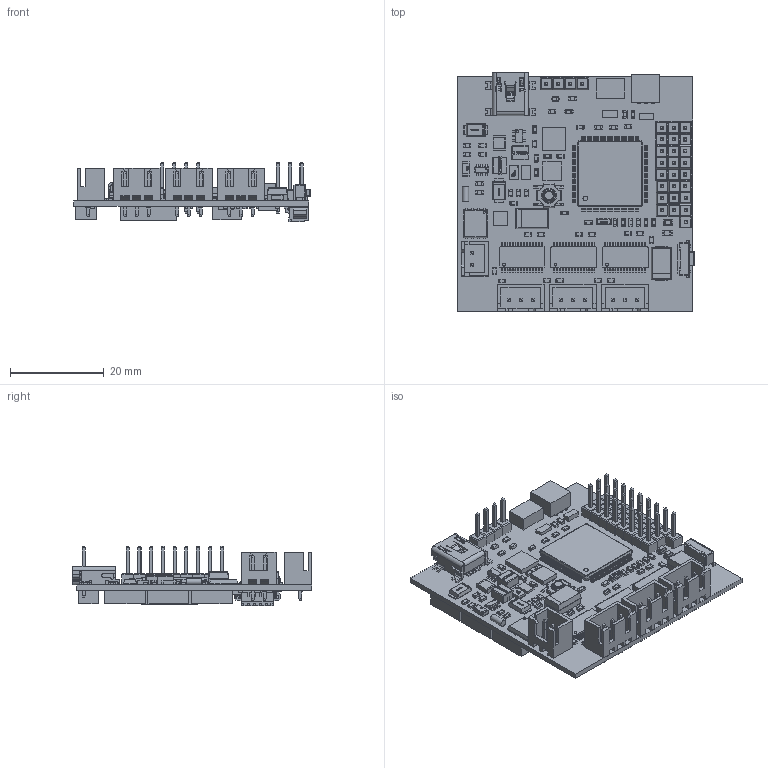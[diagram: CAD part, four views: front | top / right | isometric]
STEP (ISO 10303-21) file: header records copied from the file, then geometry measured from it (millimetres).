
FILE_DESCRIPTION(/* description */ (''),/* implementation_level */ '2;1');
FILE_NAME(/* name */ 'C:/Users/Андрей/YandexDisk/модельки/Controllers_SBGC/Extended.step',/* time_stamp */ '2020-09-29T19:30:48+03:00',/* author */ (''),/* organization */ (''),/* preprocessor_version */ 'ST-DEVELOPER v18.1',/* originating_system */ 'Autodesk Translation Framework v9.3.0.1241',/* authorisation */ '');
FILE_SCHEMA (('AUTOMOTIVE_DESIGN { 1 0 10303 214 3 1 1 }'));
Products named in the file (195): (Unsaved); SBGC_Extended; Board; SW3; E-Switch_-_TL3330AF130QG_(Tact_Switch__SMD); HA1; 989426720; Extruded; R31; U12; sot236; U11; SOT23-5-2; U10; 989427520; Extruded_1; U9; 989427680; Extruded_2; U8; 8-TDFN_2x3; U7; 989427200; Extruded_3; U6; 989427840; Extruded_4; U5; LQFP100; U4; 989428000; Extruded_5; U3; U2; U1; SW3dPS-TSSOP-28_P065; SW3dPS-TSSOP-28_P065_Free-Models2; SW3dPS-TSSOP-28_P065_455332561; SW3dPS-TSSOP-28_P065_Extruded2; SW3dPS-TSSOP-28_P065_455099953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
Assembly tree (318 placements, depth 9):
  (Unsaved)
    SBGC_Extended
      Board
      SW3
        E-Switch_-_TL3330AF130QG_(Tact_Switch__SMD)
      HA1
        989426720
          Extruded
      R31
        Resistors_0603
      U12
        sot236
      U11
        SOT23-5-2
      U10
        989427520
          Extruded_1
      U9
        989427680
          Extruded_2
      U8
        8-TDFN_2x3
      U7
        989427200
          Extruded_3
      U6
        989427840
          Extruded_4
      U5
        LQFP100
      U4
        989428000
          Extruded_5
      U3
        SW3dPS-TSSOP-28_P065
          SW3dPS-TSSOP-28_P065_Free-Models2
            SW3dPS-TSSOP-28_P065_PINTSSOP-57  x28
              SW3dPS-TSSOP-28_P065_Board3
              SW3dPS-TSSOP-28_P065_Free-Models3
                SW3dPS-TSSOP-28_P065_353885137
                  SW3dPS-TSSOP-28_P065_Extruded3
            SW3dPS-TSSOP-28_P065_455332561
              SW3dPS-TSSOP-28_P065_Extruded2
            SW3dPS-TSSOP-28_P065_455099953
              SW3dPS-TSSOP-28_P065_Cylinder1
          SW3dPS-TSSOP-28_P065_Board2
      U2
        SW3dPS-TSSOP-28_P065
          SW3dPS-TSSOP-28_P065_Free-Models2
            SW3dPS-TSSOP-28_P065_PINTSSOP-57  x28
              SW3dPS-TSSOP-28_P065_Board3
              SW3dPS-TSSOP-28_P065_Free-Models3
                SW3dPS-TSSOP-28_P065_353885137
                  SW3dPS-TSSOP-28_P065_Extruded3
            SW3dPS-TSSOP-28_P065_455332561
              SW3dPS-TSSOP-28_P065_Extruded2
            SW3dPS-TSSOP-28_P065_455099953
              SW3dPS-TSSOP-28_P065_Cylinder1
          SW3dPS-TSSOP-28_P065_Board2
      U1
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Bounding box: 50.33 x 50.95 x 12.76 mm (x, y, z)
Volume: 6057.9 mm3; surface area: 13990.7 mm2
Topology: 420 solids, 420 shells, 13596 faces, 34149 edges, 21176 vertices
Faces by surface type: plane 9641, cylinder 3001, bspline 522, torus 267, sphere 163, cone 2
Full cylindrical faces by diameter (mm): 0.15 x1, 0.3 x4, 0.443 x1, 0.6 x3, 0.7 x3, 0.8 x2, 0.9 x36, 0.95 x4, 1 x5, 1.4 x1, 2 x1
Entity records: 143103 total; most frequent: CARTESIAN_POINT 32133, ORIENTED_EDGE 22398, DIRECTION 22116, EDGE_CURVE 11199, LINE 8874, VECTOR 8874, VERTEX_POINT 7076, AXIS2_PLACEMENT_3D 6621
